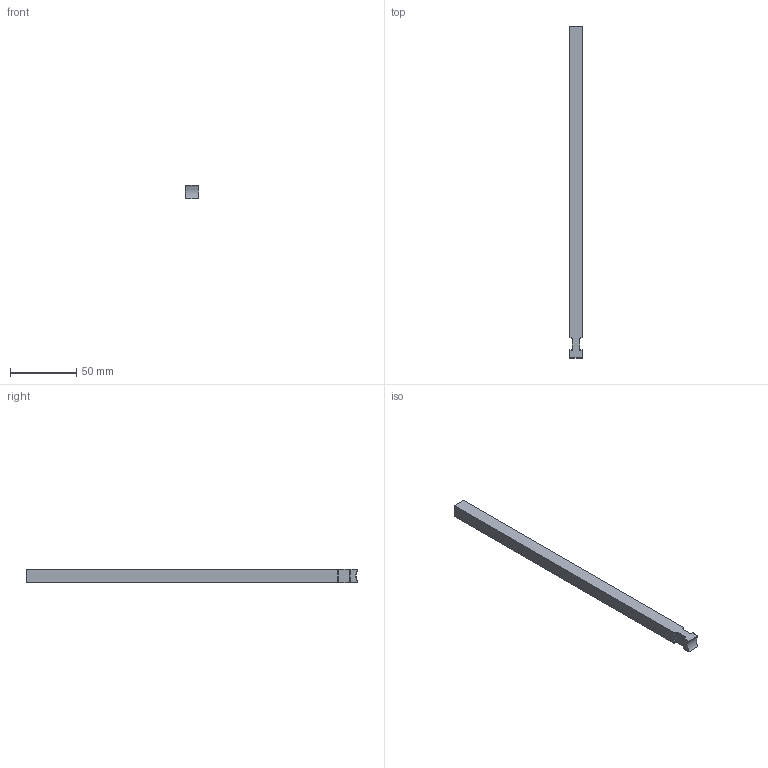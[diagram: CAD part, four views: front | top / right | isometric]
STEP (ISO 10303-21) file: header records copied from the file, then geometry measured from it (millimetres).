
FILE_DESCRIPTION (( 'STEP AP203' ), '1' );
FILE_NAME ('CBMMH10X10L250.step', '2026-02-23T19:02:52', ( '' ), ( '' ), 'SwSTEP 2.0', 'SolidWorks 2023', '' );
FILE_SCHEMA (( 'CONFIG_CONTROL_DESIGN' ));
Length unit declared in the file: millimetre
Products named in the file (1): CBMMH10X10L250
Bounding box: 10 x 251.34 x 10 mm (x, y, z)
Volume: 24661.2 mm3; surface area: 10226.4 mm2
Topology: 1 solids, 1 shells, 26 faces, 64 edges, 40 vertices
Faces by surface type: plane 9, cylinder 9, torus 8
Entity records: 903 total; most frequent: CARTESIAN_POINT 227, ORIENTED_EDGE 128, DIRECTION 120, EDGE_CURVE 64, AXIS2_PLACEMENT_3D 45, VERTEX_POINT 40, VECTOR 30, LINE 30
